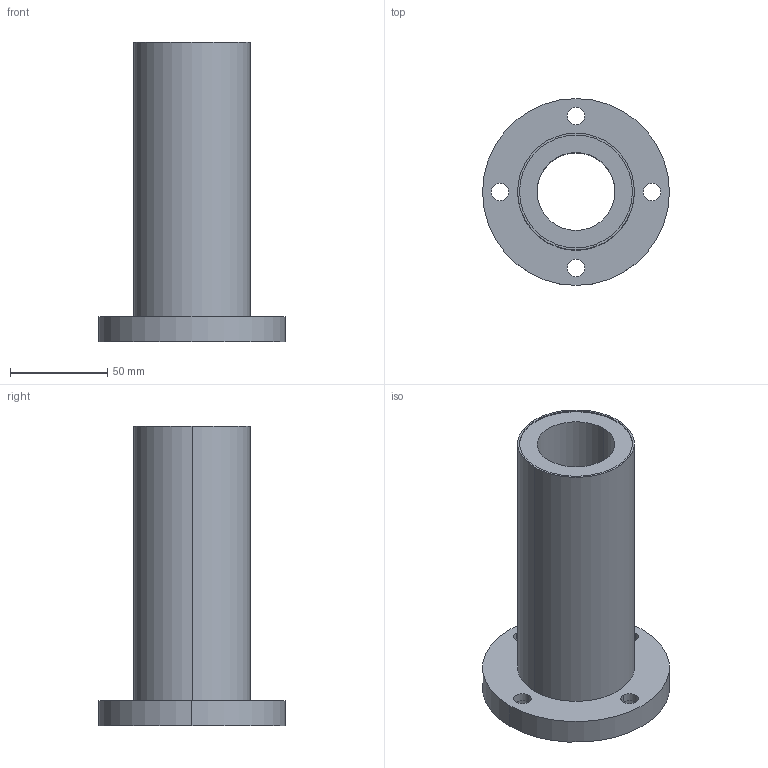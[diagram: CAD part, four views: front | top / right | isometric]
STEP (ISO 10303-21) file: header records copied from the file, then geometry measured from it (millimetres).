
FILE_DESCRIPTION((''),'2;1');
FILE_NAME('C:\Documents and Settings\ｿﾀﾀ蠑ｷ1\ｹﾙﾅﾁ ﾈｭｸ饅\ｺﾎﾇｰﾆﾄﾀﾏ\ﾁｦﾇｰ\LMF__LUU\LMF40LUU.stp','2005-06-15T09:44:13',('ｿﾀﾀ蠑ｷ1'),(''),'Autodesk Inventor 9','Autodesk Inventor 9','');
FILE_SCHEMA(('AUTOMOTIVE_DESIGN { 1 0 10303 214 1 1 1 1 }'));
Length unit declared in the file: millimetre
Products named in the file (1): LMF__
Bounding box: 96 x 96 x 154 mm (x, y, z)
Volume: 291248.3 mm3; surface area: 63379.7 mm2
Topology: 1 solids, 1 shells, 38 faces, 84 edges, 56 vertices
Faces by surface type: cylinder 28, plane 10
Entity records: 1127 total; most frequent: DIRECTION 218, CARTESIAN_POINT 179, ORIENTED_EDGE 168, AXIS2_PLACEMENT_3D 95, EDGE_CURVE 84, VERTEX_POINT 56, CIRCLE 56, EDGE_LOOP 56
